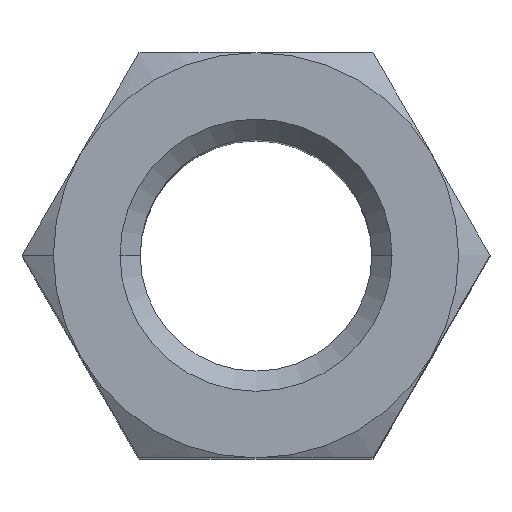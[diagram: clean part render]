
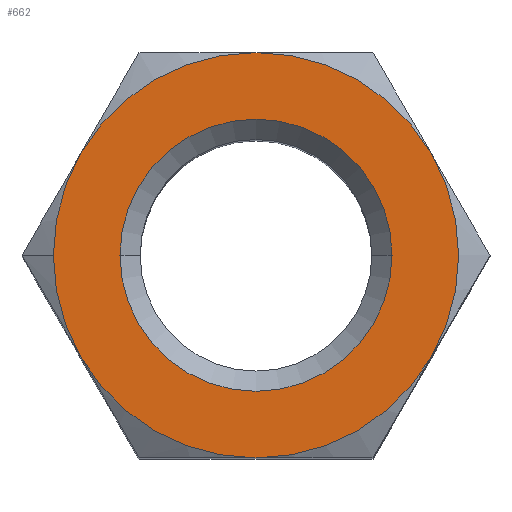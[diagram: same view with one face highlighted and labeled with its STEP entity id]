
A CAD part, top view. The second image highlights one B-rep face of the part: STEP entity #662.
In plain terms, the highlighted planar face has unit normal (0, 0, 1).
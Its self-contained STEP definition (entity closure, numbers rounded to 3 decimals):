
#3 = ORIENTED_EDGE ( 'NONE', *, *, #82, .T. ) ;
#11 = AXIS2_PLACEMENT_3D ( 'NONE', #77, #565, #84 ) ;
#35 = AXIS2_PLACEMENT_3D ( 'NONE', #836, #511, #794 ) ;
#41 = DIRECTION ( 'NONE',  ( 0., 0., -1. ) ) ;
#54 = EDGE_CURVE ( 'NONE', #642, #770, #514, .T. ) ;
#57 = EDGE_CURVE ( 'NONE', #372, #74, #572, .T. ) ;
#74 = VERTEX_POINT ( 'NONE', #124 ) ;
#77 = CARTESIAN_POINT ( 'NONE',  ( 0., 0., 7.5 ) ) ;
#82 = EDGE_CURVE ( 'NONE', #681, #564, #685, .T. ) ;
#84 = DIRECTION ( 'NONE',  ( 1., 0., 0. ) ) ;
#88 = EDGE_CURVE ( 'NONE', #853, #74, #528, .T. ) ;
#95 = CIRCLE ( 'NONE', #440, 3.5 ) ;
#121 = DIRECTION ( 'NONE',  ( 0., 0., -1. ) ) ;
#124 = CARTESIAN_POINT ( 'NONE',  ( 0., 3.5, 7.5 ) ) ;
#129 = CIRCLE ( 'NONE', #199, 3.5 ) ;
#133 = EDGE_CURVE ( 'NONE', #808, #804, #129, .T. ) ;
#136 = ORIENTED_EDGE ( 'NONE', *, *, #57, .T. ) ;
#141 = DIRECTION ( 'NONE',  ( -1., 0., 0. ) ) ;
#168 = CARTESIAN_POINT ( 'NONE',  ( 2.35, 0., 7.5 ) ) ;
#169 = EDGE_CURVE ( 'NONE', #770, #808, #217, .T. ) ;
#175 = CIRCLE ( 'NONE', #285, 2.35 ) ;
#184 = CARTESIAN_POINT ( 'NONE',  ( 3.031, -1.75, 7.5 ) ) ;
#192 = CIRCLE ( 'NONE', #315, 3.5 ) ;
#194 = DIRECTION ( 'NONE',  ( -1., 0., 0. ) ) ;
#198 = CARTESIAN_POINT ( 'NONE',  ( 0., 0., 7.5 ) ) ;
#199 = AXIS2_PLACEMENT_3D ( 'NONE', #852, #726, #796 ) ;
#217 = CIRCLE ( 'NONE', #429, 3.5 ) ;
#253 = DIRECTION ( 'NONE',  ( -1., 0., 0. ) ) ;
#258 = CARTESIAN_POINT ( 'NONE',  ( 0., 0., 7.5 ) ) ;
#265 = EDGE_LOOP ( 'NONE', ( #3, #506 ) ) ;
#285 = AXIS2_PLACEMENT_3D ( 'NONE', #823, #772, #631 ) ;
#290 = EDGE_CURVE ( 'NONE', #564, #681, #175, .T. ) ;
#306 = PLANE ( 'NONE',  #11 ) ;
#315 = AXIS2_PLACEMENT_3D ( 'NONE', #869, #659, #253 ) ;
#319 = ORIENTED_EDGE ( 'NONE', *, *, #339, .T. ) ;
#331 = DIRECTION ( 'NONE',  ( -1., 0., 0. ) ) ;
#339 = EDGE_CURVE ( 'NONE', #804, #372, #192, .T. ) ;
#359 = CARTESIAN_POINT ( 'NONE',  ( -3.5, 0., 7.5 ) ) ;
#372 = VERTEX_POINT ( 'NONE', #737 ) ;
#429 = AXIS2_PLACEMENT_3D ( 'NONE', #692, #754, #141 ) ;
#434 = ORIENTED_EDGE ( 'NONE', *, *, #88, .F. ) ;
#440 = AXIS2_PLACEMENT_3D ( 'NONE', #198, #537, #331 ) ;
#466 = CARTESIAN_POINT ( 'NONE',  ( 0., 0., 7.5 ) ) ;
#495 = FACE_OUTER_BOUND ( 'NONE', #498, .T. ) ;
#498 = EDGE_LOOP ( 'NONE', ( #583, #822, #834, #733, #319, #136, #434 ) ) ;
#506 = ORIENTED_EDGE ( 'NONE', *, *, #290, .T. ) ;
#511 = DIRECTION ( 'NONE',  ( 0., 0., 1. ) ) ;
#514 = CIRCLE ( 'NONE', #35, 3.5 ) ;
#518 = DIRECTION ( 'NONE',  ( -1., 0., 0. ) ) ;
#519 = DIRECTION ( 'NONE',  ( -1., 0., 0. ) ) ;
#528 = CIRCLE ( 'NONE', #742, 3.5 ) ;
#537 = DIRECTION ( 'NONE',  ( 0., 0., 1. ) ) ;
#541 = CARTESIAN_POINT ( 'NONE',  ( -3.031, 1.75, 7.5 ) ) ;
#557 = EDGE_CURVE ( 'NONE', #853, #642, #95, .T. ) ;
#564 = VERTEX_POINT ( 'NONE', #594 ) ;
#565 = DIRECTION ( 'NONE',  ( 0., 0., -1. ) ) ;
#572 = CIRCLE ( 'NONE', #713, 3.5 ) ;
#583 = ORIENTED_EDGE ( 'NONE', *, *, #557, .T. ) ;
#590 = CARTESIAN_POINT ( 'NONE',  ( 0., 0., 7.5 ) ) ;
#594 = CARTESIAN_POINT ( 'NONE',  ( -2.35, 0., 7.5 ) ) ;
#624 = AXIS2_PLACEMENT_3D ( 'NONE', #466, #41, #194 ) ;
#631 = DIRECTION ( 'NONE',  ( -1., 0., 0. ) ) ;
#642 = VERTEX_POINT ( 'NONE', #359 ) ;
#650 = CARTESIAN_POINT ( 'NONE',  ( 0., -3.5, 7.5 ) ) ;
#659 = DIRECTION ( 'NONE',  ( 0., 0., 1. ) ) ;
#662 = ADVANCED_FACE ( 'NONE', ( #707, #495 ), #306, .F. ) ;
#681 = VERTEX_POINT ( 'NONE', #168 ) ;
#685 = CIRCLE ( 'NONE', #624, 2.35 ) ;
#692 = CARTESIAN_POINT ( 'NONE',  ( 0., 0., 7.5 ) ) ;
#707 = FACE_BOUND ( 'NONE', #265, .T. ) ;
#713 = AXIS2_PLACEMENT_3D ( 'NONE', #590, #797, #519 ) ;
#726 = DIRECTION ( 'NONE',  ( 0., 0., 1. ) ) ;
#733 = ORIENTED_EDGE ( 'NONE', *, *, #133, .T. ) ;
#737 = CARTESIAN_POINT ( 'NONE',  ( 3.031, 1.75, 7.5 ) ) ;
#742 = AXIS2_PLACEMENT_3D ( 'NONE', #258, #121, #518 ) ;
#754 = DIRECTION ( 'NONE',  ( 0., 0., 1. ) ) ;
#769 = CARTESIAN_POINT ( 'NONE',  ( -3.031, -1.75, 7.5 ) ) ;
#770 = VERTEX_POINT ( 'NONE', #769 ) ;
#772 = DIRECTION ( 'NONE',  ( 0., 0., -1. ) ) ;
#794 = DIRECTION ( 'NONE',  ( -1., 0., 0. ) ) ;
#796 = DIRECTION ( 'NONE',  ( -1., 0., 0. ) ) ;
#797 = DIRECTION ( 'NONE',  ( 0., 0., 1. ) ) ;
#804 = VERTEX_POINT ( 'NONE', #184 ) ;
#808 = VERTEX_POINT ( 'NONE', #650 ) ;
#822 = ORIENTED_EDGE ( 'NONE', *, *, #54, .T. ) ;
#823 = CARTESIAN_POINT ( 'NONE',  ( 0., 0., 7.5 ) ) ;
#834 = ORIENTED_EDGE ( 'NONE', *, *, #169, .T. ) ;
#836 = CARTESIAN_POINT ( 'NONE',  ( 0., 0., 7.5 ) ) ;
#852 = CARTESIAN_POINT ( 'NONE',  ( 0., 0., 7.5 ) ) ;
#853 = VERTEX_POINT ( 'NONE', #541 ) ;
#869 = CARTESIAN_POINT ( 'NONE',  ( 0., 0., 7.5 ) ) ;
